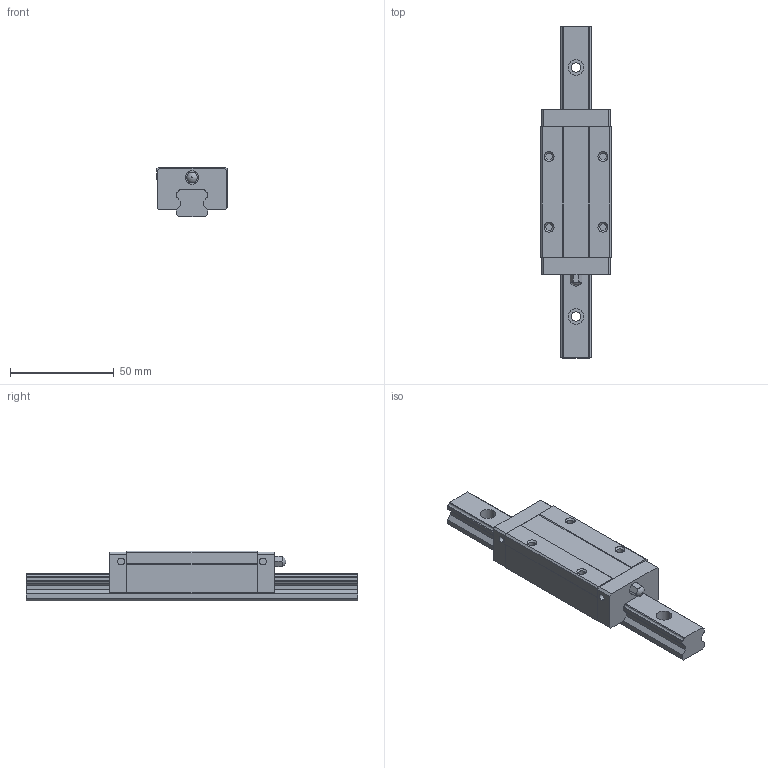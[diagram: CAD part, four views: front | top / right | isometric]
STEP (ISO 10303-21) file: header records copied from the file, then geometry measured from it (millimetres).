
FILE_DESCRIPTION((''),'1');
FILE_NAME(' ',' ',(''),(''),'ACIS Interop R16','Kubotek KeyCreator V6.5.2 (0407)',' ');
FILE_SCHEMA(('CONFIG_CONTROL_DESIGN'));
Length unit declared in the file: millimetre
Products named in the file (3): 1; 2; 3
Bounding box: 34 x 160 x 24 mm (x, y, z)
Volume: 70869.8 mm3; surface area: 22088.3 mm2
Topology: 3 solids, 3 shells, 145 faces, 374 edges, 250 vertices
Faces by surface type: plane 79, cylinder 54, cone 10, sphere 2
Entity records: 4605 total; most frequent: DIRECTION 805, CARTESIAN_POINT 775, ORIENTED_EDGE 748, EDGE_CURVE 374, AXIS2_PLACEMENT_3D 284, VERTEX_POINT 250, LINE 237, VECTOR 237
